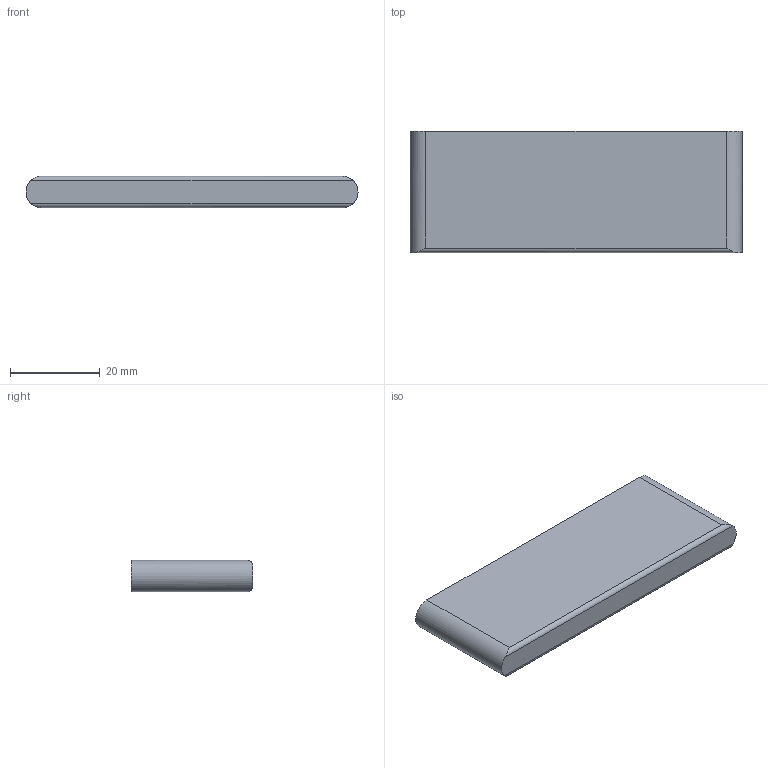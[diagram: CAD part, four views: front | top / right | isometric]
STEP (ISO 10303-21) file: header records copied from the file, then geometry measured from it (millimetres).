
FILE_DESCRIPTION( ( '' ), '1' );
FILE_NAME( 'C:/Documents and Settings/Sachin/Desktop/Sheet 10_1/stp/115020.stp', '2013-10-22T11:49:17', ( '' ), ( '' ), ' ', ' ', ' ' );
FILE_SCHEMA( ( 'CONFIG_CONTROL_DESIGN' ) );
Length unit declared in the file: millimetre
Products named in the file (1): 1
Bounding box: 74 x 27 x 7 mm (x, y, z)
Volume: 12523.9 mm3; surface area: 5651.9 mm2
Topology: 1 solids, 1 shells, 29 faces, 66 edges, 44 vertices
Faces by surface type: cylinder 16, plane 13
Entity records: 900 total; most frequent: CARTESIAN_POINT 176, DIRECTION 150, ORIENTED_EDGE 132, EDGE_CURVE 66, AXIS2_PLACEMENT_3D 58, VERTEX_POINT 44, EDGE_LOOP 34, LINE 34
